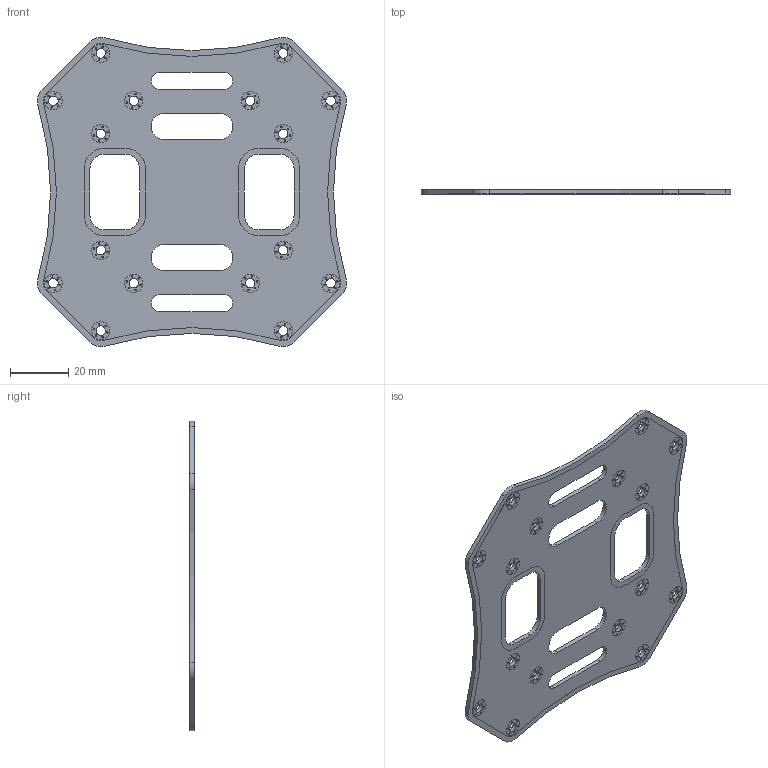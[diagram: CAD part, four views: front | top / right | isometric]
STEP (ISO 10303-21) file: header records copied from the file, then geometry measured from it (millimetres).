
FILE_DESCRIPTION(/* description */ ('STEP AP203'),/* implementation_level */ '2;1');
FILE_NAME(/* name */ 'C:\Users\Brayo\Documents\Kipepeo\CAD\Prototype\Frame\F450-MODEL\F450 Top Plate.stp',/* time_stamp */ '2025-10-07T18:02:06+03:00',/* author */ ('Brayo'),/* organization */ (''),/* preprocessor_version */ 'ST-DEVELOPER v20',/* originating_system */ 'Autodesk Inventor 2022',/* authorisation */ '');
FILE_SCHEMA (('AUTOMOTIVE_DESIGN { 1 0 10303 214 3 1 1 }'));
Length unit declared in the file: millimetre
Products named in the file (1): F450 Top Plate
Bounding box: 106.1 x 1.52 x 106.1 mm (x, y, z)
Volume: 11999.3 mm3; surface area: 17655.9 mm2
Topology: 1 solids, 1 shells, 296 faces, 768 edges, 512 vertices
Faces by surface type: cylinder 212, plane 84
Full cylindrical faces by diameter (mm): 0.5 x96, 3.25 x16, 6.25 x32
Entity records: 9909 total; most frequent: DIRECTION 1786, CARTESIAN_POINT 1577, ORIENTED_EDGE 1536, EDGE_CURVE 768, AXIS2_PLACEMENT_3D 721, EDGE_LOOP 570, VERTEX_POINT 512, CIRCLE 424
